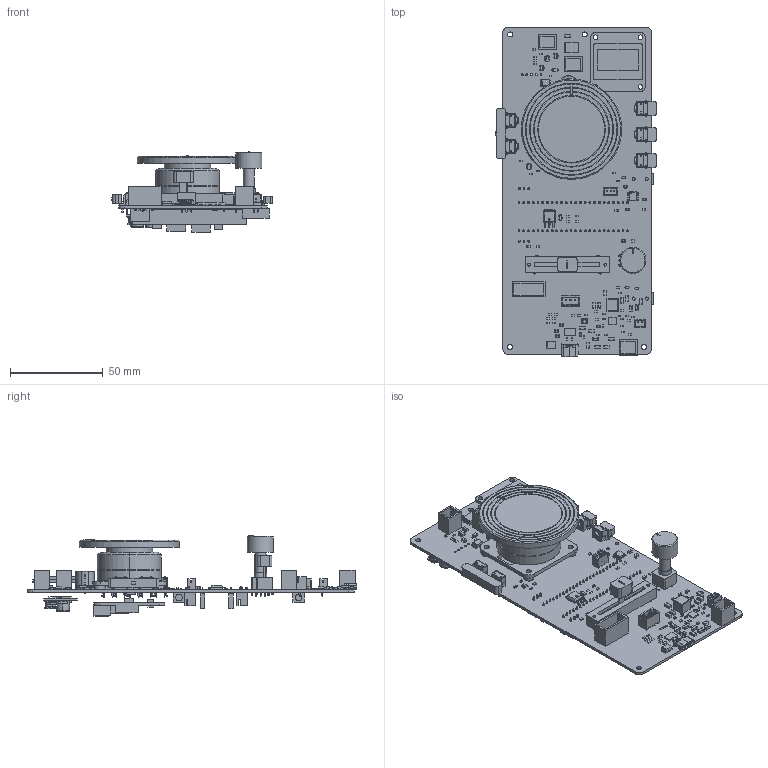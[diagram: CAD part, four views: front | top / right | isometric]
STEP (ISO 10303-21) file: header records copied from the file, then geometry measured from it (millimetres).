
FILE_DESCRIPTION(('KiCad electronic assembly'),'2;1');
FILE_NAME('DSH-5-RevD-Demo-Assembly.step','2026-11-21T18:04:28',( 'Pcbnew'),('Kicad'),'Open CASCADE STEP processor 7.9', 'KiCad to STEP converter','Unknown');
FILE_SCHEMA(('AUTOMOTIVE_DESIGN { 1 0 10303 214 1 1 1 1 }'));
Length unit declared in the file: millimetre
Products named in the file (116): DSH-5-RevD-Demo-Assembly 1; Level_PTV09; Bourns PTV09A-1 potentiometer and knob; RV2 fixed potentiometer housing; RV2 sleeve bushing; RV2 through-hole terminals; RV2 rotating D shaft; RV2 rotating level knob; RV2 index; R_0603_1608Metric; D_SOD-323; C_0603_1608Metric; JST_VH_2P; d439e862-e5e1-11f1-bb71-8157894c7c6c; D_SMC; D_SOD-123; SW_Tactile_SPST_Angled_PTS645Vx39-2LFS; Crossfader_PTA3043; Bourns PTA3043 fader and cap; RV1 fixed fader housing; RV1 through-hole terminals and tabs; RV1 moving lever; RV1 moving thumb cap; RV1 index; TSOT-23-8; C_0805_2012Metric; JST_PH_B3B-PH-K_1x03_P2.00mm_Vertical; JST_B3B_PH_K; USB_C_Receptacle_GCT_USB4125-xx-x_6P_TopMnt_Horizontal; C_1206_3216Metric; C_0402_1005Metric; D_SMB; SOT-23; OLED_Adafruit_326; Breakout PCB; Mounting header; Glass; Active area; CP_Radial_D10.0mm_P5.00mm; CP_Radial_D100mm_P500mm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
Assembly tree (200 placements, depth 6):
  DSH-5-RevD-Demo-Assembly 1
    Level_PTV09
      Bourns PTV09A-1 potentiometer and knob
        RV2 fixed potentiometer housing
        RV2 sleeve bushing
        RV2 through-hole terminals
        RV2 rotating D shaft
        RV2 rotating level knob
        RV2 index
    R_0603_1608Metric  x32
      R_0603_1608Metric
    D_SOD-323  x4
      D_SOD-323
    C_0603_1608Metric  x14
      C_0603_1608Metric
    JST_VH_2P  x3
      JST_VH_2P
        d439e862-e5e1-11f1-bb71-8157894c7c6c
    D_SMC
      D_SMC
    D_SOD-123
      D_SOD-123
    SW_Tactile_SPST_Angled_PTS645Vx39-2LFS  x5
      SW_Tactile_SPST_Angled_PTS645Vx39-2LFS
    Crossfader_PTA3043
      Bourns PTA3043 fader and cap
        RV1 fixed fader housing
        RV1 through-hole terminals and tabs
        RV1 moving lever
        RV1 moving thumb cap
        RV1 index
    TSOT-23-8
      TSOT-23-8
    C_0805_2012Metric  x9
      C_0805_2012Metric
    JST_PH_B3B-PH-K_1x03_P2.00mm_Vertical
      JST_B3B_PH_K
    USB_C_Receptacle_GCT_USB4125-xx-x_6P_TopMnt_Horizontal
      USB_C_Receptacle_GCT_USB4125-xx-x_6P_TopMnt_Horizontal
    C_1206_3216Metric  x14
      C_1206_3216Metric
    C_0402_1005Metric
      C_0402_1005Metric
    D_SMB  x2
      D_SMB
    SOT-23  x3
      SOT-23
    OLED_Adafruit_326
      OLED_Adafruit_326
        Breakout PCB
        Mounting header
        Glass
        Active area
    CP_Radial_D10.0mm_P5.00mm
      CP_Radial_D100mm_P500mm
    SOIC-8_3.9x4.9mm_P1.27mm
      SOIC-8_3.9x4.9mm_P1.27mm
    Speed_seesaw
      Speed_seesaw
        Pivoting rocker cap fit model
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Bounding box: 86.17 x 177.4 x 43.12 mm (x, y, z)
Volume: 61467.4 mm3; surface area: 78920.6 mm2
Topology: 185 solids, 186 shells, 8423 faces, 21905 edges, 14233 vertices
Faces by surface type: plane 6073, cylinder 1882, bspline 393, torus 28, sphere 24, cone 19, revolution 4
Full cylindrical faces by diameter (mm): 0.2 x8, 0.65 x12, 0.7 x2, 0.75 x5, 0.8 x27, 0.9 x20, 0.95 x9, 0.99 x10, 1 x82, 1.02 x5, 1.2 x13, 1.3 x10, 1.65 x2, 1.7 x18, 2 x5, 2.2 x2, 2.5 x4, 2.55 x4, 2.7 x20, 3.14 x5, 3.2 x4, 3.25 x3, 3.5 x5, 3.6 x2, 4 x1, 5.4 x4, 6 x1, 6.35 x1, 6.8 x1, 8.5 x1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
Entity records: 178679 total; most frequent: CARTESIAN_POINT 34127, ORIENTED_EDGE 24951, DIRECTION 23374, EDGE_CURVE 12468, LINE 9734, VECTOR 9734, VERTEX_POINT 8073, AXIS2_PLACEMENT_3D 6818
